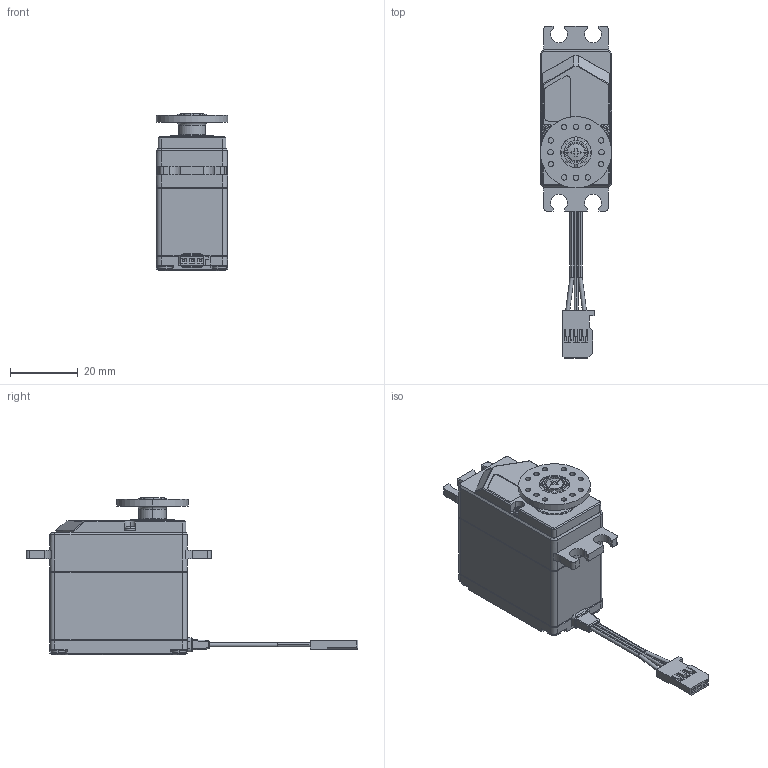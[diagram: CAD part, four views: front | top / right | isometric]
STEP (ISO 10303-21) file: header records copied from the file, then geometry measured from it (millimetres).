
FILE_DESCRIPTION (( 'STEP AP203' ), '1' );
FILE_NAME ('HPS-A703(3D).STEP', '2026-07-28T05:27:49', ( '' ), ( '' ), 'SwSTEP 2.0', 'SolidWorks 2025', '' );
FILE_SCHEMA (( 'CONFIG_CONTROL_DESIGN' ));
Length unit declared in the file: millimetre
Products named in the file (4): HPS-A703(3D) ホーン; HPS-A703(3D); HPS-A703(3D) ねじ8mm
Assembly tree (3 placements, depth 2):
  HPS-A703(3D)
    HPS-A703(3D)
    HPS-A703(3D) ホーン
    HPS-A703(3D) ねじ8mm
Bounding box: 21 x 97.7 x 46.39 mm (x, y, z)
Volume: 34303.9 mm3; surface area: 10079 mm2
Topology: 3 solids, 11 shells, 705 faces, 1855 edges, 1192 vertices
Faces by surface type: plane 382, cylinder 230, cone 42, torus 25, sphere 19, bspline 7
Entity records: 23018 total; most frequent: CARTESIAN_POINT 4968, DIRECTION 3700, ORIENTED_EDGE 3684, EDGE_CURVE 1853, AXIS2_PLACEMENT_3D 1316, VERTEX_POINT 1192, LINE 1068, VECTOR 1068
